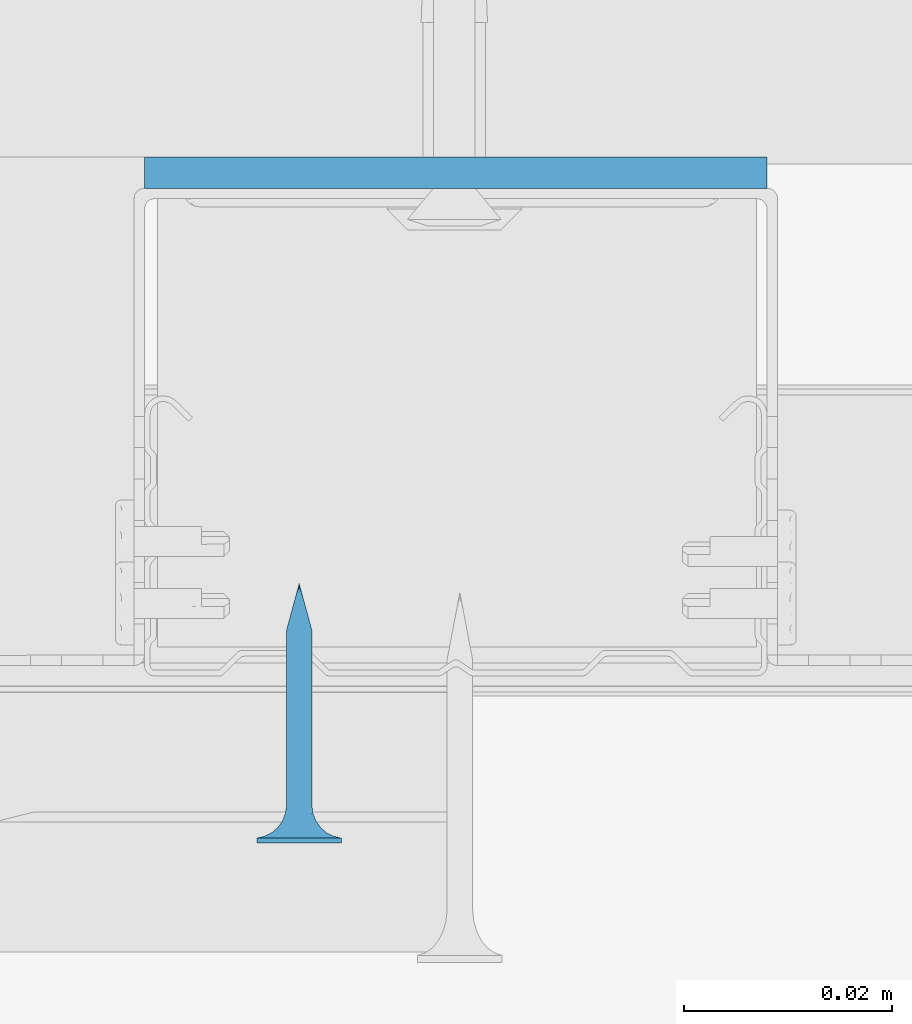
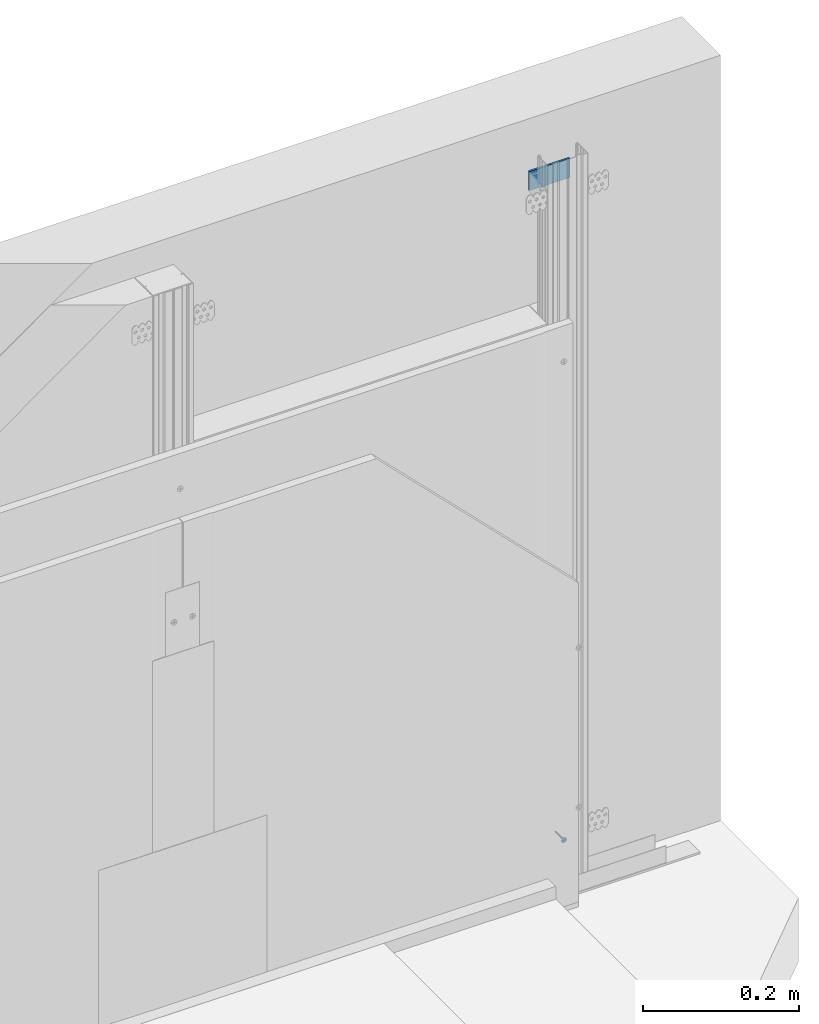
# One storey, part 46 of 47: 2 walls.
"""IFC2X3 building model written with IfcOpenShell, lengths in millimetres."""

from ifc_helpers import new_model, entity, si_unit, converted_unit, direction, frame, origin, origin_with_axes, place, context, project, spatial, faceted_brep, element, save


model = new_model("IFC2X3")

# Units and contexts
model_context = context("Model", 3, precision=1e-05, world=origin(), true_north=direction((0.0, 1.0, 0.0)))
ifc_project = project(units=[si_unit("LENGTHUNIT", "METRE", prefix="MILLI"), si_unit("AREAUNIT", "SQUARE_METRE"), si_unit("VOLUMEUNIT", "CUBIC_METRE"), converted_unit("PLANEANGLEUNIT", "DEGREE", entity("IfcPlaneAngleMeasure", 0.01745), si_unit("PLANEANGLEUNIT", "RADIAN"), dimensions=[0, 0, 0, 0, 0, 0, 0]), si_unit("SOLIDANGLEUNIT", "STERADIAN"), si_unit("MASSUNIT", "GRAM"), si_unit("TIMEUNIT", "SECOND"), si_unit("THERMODYNAMICTEMPERATUREUNIT", "DEGREE_CELSIUS"), si_unit("LUMINOUSINTENSITYUNIT", "LUMEN")], contexts=[model_context])

# Site, building, storey
site_placement = place(None, origin_with_axes())
site = spatial("IfcSite", under=ifc_project, at=site_placement, Name="Default Site", CompositionType="ELEMENT")
building_placement = place(site_placement, origin_with_axes())
building = spatial("IfcBuilding", under=site, at=building_placement, Name="Default Building", CompositionType="ELEMENT")
storey_placement = place(building_placement, origin_with_axes())
storey = spatial("IfcBuildingStorey", under=building, at=storey_placement, Name="Default Building Storey", CompositionType="ELEMENT", Elevation=0.0)

# Walls
wall_1_placement = place(storey_placement, frame((3458.037086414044, 2019.778611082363, 1120.960248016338), z_axis=(0.0, 0.0, 1.0), x_axis=(1.0, 0.0, 0.0)))
element("IfcWall", 1, at=wall_1_placement, inside=storey, Name="Taśma uszczelniająca piankowa RIGIPS szer.30mm", context=model_context, shape_type="Brep", body=[
    faceted_brep([(59.99999999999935, 0.0, 4.511946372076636e-12), (0.0, 0.0, 0.0), (1.082867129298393e-12, -2.237925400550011e-11, -30.00000000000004), (60.00000000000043, -2.237925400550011e-11, -29.99999999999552), (0.0, 3.00000000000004, 0.0), (1.082867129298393e-12, 2.999999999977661, -30.00000000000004), (60.00000000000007, 3.00000000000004, 0.0), (60.00000000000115, 2.999999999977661, -30.00000000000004)], [[[0, 1, 2, 3]], [[1, 4, 5, 2]], [[4, 6, 7, 5]], [[6, 0, 3, 7]], [[7, 3, 2, 5]], [[0, 6, 4, 1]]]),
])
wall_2_placement = place(storey_placement, frame((3610.40387046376, 5347.713057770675, -449.8785300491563), z_axis=(0.0, 0.0, 1.0), x_axis=(1.0, 8.115730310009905e-16, 0.0)))
element("IfcWall", 2, at=wall_2_placement, inside=storey, Name="Wkręt RIGIPS TN 25", context=model_context, shape_type="Brep", body=[
    faceted_brep([(-141.5377463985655, -3390.556721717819, 555.8000000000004), (-141.5377463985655, -3391.020944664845, 555.8000000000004), (-141.4875329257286, -3391.020944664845, 555.1619773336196), (-141.4875329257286, -3390.556721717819, 555.1619773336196), (-141.338128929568, -3391.020944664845, 554.5396649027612), (-141.338128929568, -3390.556721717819, 554.5396649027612), (-141.0932132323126, -3391.020944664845, 553.9483861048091), (-141.0932132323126, -3390.556721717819, 553.9483861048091), (-140.7588164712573, -3391.020944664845, 553.4027001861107), (-140.7588164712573, -3390.556721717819, 553.4027001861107), (-140.3431726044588, -3391.020944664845, 552.9160437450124), (-140.4541727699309, -3390.556721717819, 553.0314907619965), (-140.1080097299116, -3390.556721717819, 552.6986614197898), (-139.8565161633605, -3391.020944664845, 552.5003998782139), (-139.7251262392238, -3390.556721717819, 552.4088262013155), (-139.3108302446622, -3391.020944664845, 552.1660031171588), (-139.3108302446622, -3390.556721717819, 552.1660031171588), (-138.8708651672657, -3390.556721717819, 551.9735584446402), (-138.7195514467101, -3391.020944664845, 551.9210874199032), (-138.4113302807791, -3390.556721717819, 551.8341600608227), (-137.9385961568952, -3390.556721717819, 551.7497404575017), (-138.0972390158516, -3391.020944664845, 551.7716834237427), (-137.459216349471, -3391.020944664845, 551.7214699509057), (-137.459216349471, -3390.556721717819, 551.7214699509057), (-136.8211936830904, -3391.020944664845, 551.7716834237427), (-136.8211936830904, -3390.556721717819, 551.7716834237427), (-136.198881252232, -3391.020944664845, 551.9210874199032), (-136.198881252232, -3390.556721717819, 551.9210874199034), (-135.6076024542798, -3391.020944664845, 552.1660031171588), (-135.6076024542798, -3390.556721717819, 552.1660031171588), (-135.0619165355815, -3391.020944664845, 552.5003998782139), (-135.0619165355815, -3390.556721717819, 552.5003998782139), (-134.5752600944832, -3391.020944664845, 552.9160437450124), (-134.5752600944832, -3390.556721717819, 552.9160437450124), (-134.1596162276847, -3391.020944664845, 553.4027001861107), (-134.1596162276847, -3390.556721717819, 553.4027001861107), (-133.8252194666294, -3391.020944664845, 553.9483861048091), (-133.8252194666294, -3390.556721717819, 553.9483861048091), (-133.580303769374, -3391.020944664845, 554.5396649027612), (-133.580303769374, -3390.556721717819, 554.5396649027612), (-133.4308997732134, -3391.020944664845, 556.4380226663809), (-133.4308997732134, -3390.556721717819, 556.4380226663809), (-133.3806863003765, -3390.556721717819, 555.8000000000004), (-133.3806863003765, -3391.020944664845, 555.8000000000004), (-133.4308997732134, -3390.556721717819, 555.1619773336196), (-133.4308997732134, -3391.020944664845, 555.1619773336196), (-133.580303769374, -3391.020944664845, 557.0603350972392), (-133.580303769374, -3390.556721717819, 557.0603350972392), (-133.8252194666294, -3391.020944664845, 557.6516138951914), (-133.8252194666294, -3390.556721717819, 557.6516138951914), (-134.1596162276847, -3391.020944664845, 558.1972998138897), (-134.1596162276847, -3390.556721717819, 558.1972998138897), (-134.5752600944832, -3391.020944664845, 558.683956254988), (-134.5752600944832, -3390.556721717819, 558.683956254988), (-135.0619165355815, -3391.020944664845, 559.0996001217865), (-135.0619165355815, -3390.556721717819, 559.0996001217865), (-135.6076024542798, -3391.020944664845, 559.4339968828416), (-135.6076024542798, -3390.556721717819, 559.4339968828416), (-136.198881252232, -3391.020944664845, 559.6789125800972), (-136.198881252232, -3390.556721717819, 559.6789125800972), (-136.8211936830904, -3391.020944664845, 559.8283165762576), (-136.8211936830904, -3390.556721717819, 559.8283165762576), (-137.459216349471, -3391.020944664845, 559.8785300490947), (-137.459216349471, -3390.556721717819, 559.8785300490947), (-138.0972390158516, -3391.020944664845, 559.8283165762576), (-138.0972390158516, -3390.556721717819, 559.8283165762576), (-138.7195514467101, -3391.020944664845, 559.6789125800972), (-138.7195514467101, -3390.556721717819, 559.6789125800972), (-139.3108302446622, -3391.020944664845, 559.4339968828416), (-139.3108302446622, -3390.556721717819, 559.4339968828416), (-139.8565161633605, -3391.020944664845, 559.0996001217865), (-139.8565161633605, -3390.556721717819, 559.0996001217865), (-140.3431726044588, -3391.020944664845, 558.683956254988), (-140.3431726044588, -3390.556721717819, 558.683956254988), (-140.7588164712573, -3391.020944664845, 558.1972998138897), (-140.7588164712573, -3390.556721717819, 558.1972998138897), (-141.0932132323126, -3391.020944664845, 557.6516138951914), (-141.0932132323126, -3390.556721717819, 557.6516138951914), (-141.338128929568, -3391.020944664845, 557.0603350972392), (-141.338128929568, -3390.556721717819, 557.0603350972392), (-141.4875329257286, -3391.020944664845, 556.4380226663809), (-141.4875329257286, -3390.556721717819, 556.4380226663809), (-137.8060615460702, -3388.229732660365, 554.5055560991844), (-137.459216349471, -3387.475459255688, 554.5693795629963), (-137.6517277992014, -3387.475459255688, 554.5845305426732), (-137.459216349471, -3388.229732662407, 554.4598930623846), (-137.8394989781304, -3387.475459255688, 554.6296104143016), (-138.1292698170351, -3388.229732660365, 554.639433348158), (-138.0179063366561, -3387.475459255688, 554.7035091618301), (-138.1825568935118, -3387.475459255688, 554.804407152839), (-138.4068150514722, -3388.229732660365, 554.8524012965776), (-138.3293964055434, -3387.475459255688, 554.929819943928), (-138.6197830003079, -3388.229732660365, 555.1299465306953), (-138.4548091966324, -3387.475459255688, 555.0766594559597), (-138.5557071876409, -3387.475459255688, 555.2413100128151), (-138.7536602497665, -3388.229732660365, 555.4531548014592), (-138.6296059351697, -3387.475459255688, 555.4197173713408), (-138.6746858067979, -3387.475459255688, 555.6074885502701), (-138.7993232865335, -3388.229732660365, 555.7999999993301), (-138.6898367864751, -3387.475459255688, 555.8000000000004), (-138.7536602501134, -3388.229732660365, 556.1468451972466), (-138.6746858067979, -3387.475459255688, 555.9925114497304), (-138.6296059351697, -3387.475459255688, 556.1802826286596), (-138.6197830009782, -3388.229732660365, 556.4700534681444), (-138.5557071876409, -3387.475459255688, 556.3586899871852), (-138.4548091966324, -3387.475459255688, 556.5233405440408), (-138.4068150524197, -3388.229732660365, 556.7475987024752), (-138.3293964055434, -3387.475459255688, 556.6701800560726), (-138.1292698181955, -3388.229732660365, 556.9605666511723), (-138.1825568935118, -3387.475459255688, 556.7955928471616), (-138.0179063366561, -3387.475459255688, 556.8964908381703), (-137.8060615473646, -3388.229732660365, 557.0944439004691), (-137.8394989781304, -3387.475459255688, 556.9703895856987), (-137.6517277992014, -3387.475459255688, 557.0154694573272), (-137.459216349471, -3388.229732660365, 557.1401069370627), (-137.459216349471, -3387.475459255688, 557.0306204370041), (-137.1123711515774, -3388.229732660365, 557.0944439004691), (-137.2667048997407, -3387.475459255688, 557.0154694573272), (-137.0789337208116, -3387.475459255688, 556.9703895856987), (-136.7891628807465, -3388.229732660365, 556.9605666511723), (-136.9005263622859, -3387.475459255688, 556.8964908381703), (-136.7358758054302, -3387.475459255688, 556.7955928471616), (-136.5116176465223, -3388.229732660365, 556.7475987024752), (-136.5890362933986, -3387.475459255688, 556.6701800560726), (-136.2986496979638, -3388.229732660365, 556.4700534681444), (-136.4636235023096, -3387.475459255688, 556.5233405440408), (-136.3627255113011, -3387.475459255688, 556.3586899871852), (-136.1647724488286, -3388.229732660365, 556.1468451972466), (-136.2888267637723, -3387.475459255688, 556.1802826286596), (-136.2437468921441, -3387.475459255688, 555.9925114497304), (-136.1191094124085, -3388.229732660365, 555.7999999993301), (-136.2285959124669, -3387.475459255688, 555.8000000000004), (-136.1647724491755, -3388.229732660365, 555.4531548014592), (-136.2437468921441, -3387.475459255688, 555.6074885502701), (-136.2888267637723, -3387.475459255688, 555.4197173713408), (-136.2986496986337, -3388.229732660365, 555.1299465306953), (-136.3627255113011, -3387.475459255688, 555.2413100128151), (-136.4636235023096, -3387.475459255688, 555.0766594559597), (-136.5116176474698, -3388.229732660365, 554.8524012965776), (-136.5890362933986, -3387.475459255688, 554.929819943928), (-136.7891628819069, -3388.229732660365, 554.639433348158), (-136.7358758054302, -3387.475459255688, 554.804407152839), (-136.9005263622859, -3387.475459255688, 554.7035091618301), (-137.1123711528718, -3388.229732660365, 554.5055560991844), (-137.0789337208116, -3387.475459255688, 554.6296104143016), (-137.2667048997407, -3387.475459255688, 554.5845305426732), (-137.459216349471, -3388.936142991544, 554.1737111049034), (-137.8801308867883, -3388.936142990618, 554.2291255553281), (-138.2723607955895, -3388.936142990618, 554.3915925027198), (-138.6091762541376, -3388.936142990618, 554.6500400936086), (-138.8676238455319, -3388.936142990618, 554.9868555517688), (-139.030090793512, -3388.936142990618, 555.3790854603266), (-139.0855052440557, -3388.936142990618, 555.7999999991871), (-139.0300907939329, -3388.936142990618, 556.2209145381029), (-138.8676238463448, -3388.936142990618, 556.6131444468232), (-138.6091762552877, -3388.936142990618, 556.949959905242), (-138.272360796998, -3388.936142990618, 557.2084074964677), (-137.8801308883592, -3388.936142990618, 557.3708744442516), (-137.459216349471, -3388.936142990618, 557.4262888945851), (-137.0383018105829, -3388.936142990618, 557.3708744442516), (-136.646071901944, -3388.936142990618, 557.2084074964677), (-136.3092564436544, -3388.936142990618, 556.949959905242), (-136.0508088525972, -3388.936142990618, 556.6131444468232), (-135.8883419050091, -3388.936142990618, 556.2209145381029), (-135.8329274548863, -3388.936142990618, 555.7999999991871), (-135.88834190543, -3388.936142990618, 555.3790854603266), (-136.0508088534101, -3388.936142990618, 554.9868555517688), (-136.3092564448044, -3388.936142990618, 554.6500400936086), (-136.6460719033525, -3388.936142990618, 554.3915925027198), (-137.0383018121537, -3388.936142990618, 554.2291255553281), (-137.459216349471, -3389.553938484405, 553.727343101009), (-137.995659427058, -3389.553938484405, 553.7979671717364), (-138.4955447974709, -3389.553938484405, 554.005026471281), (-138.9248060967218, -3389.553938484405, 554.334410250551), (-139.2541898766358, -3389.553938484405, 554.7636715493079), (-139.46124917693, -3389.553938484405, 555.2635569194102), (-139.5318732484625, -3389.553938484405, 555.7999999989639), (-139.4612491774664, -3389.553938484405, 556.3364430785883), (-139.2541898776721, -3389.553938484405, 556.8363284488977), (-138.9248060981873, -3389.553938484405, 557.2655897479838), (-138.495544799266, -3389.553938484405, 557.5949735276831), (-137.9956594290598, -3389.553938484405, 557.8020328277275), (-137.459216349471, -3389.553938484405, 557.8726568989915), (-136.9227732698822, -3389.553938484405, 557.8020328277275), (-136.422887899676, -3389.553938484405, 557.5949735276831), (-135.9936266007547, -3389.553938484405, 557.2655897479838), (-135.6642428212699, -3389.553938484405, 556.8363284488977), (-135.4571835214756, -3389.553938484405, 556.3364430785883), (-135.3865594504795, -3389.553938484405, 555.7999999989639), (-135.457183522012, -3389.553938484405, 555.2635569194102), (-135.6642428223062, -3389.553938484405, 554.7636715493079), (-135.9936266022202, -3389.553938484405, 554.334410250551), (-136.4228879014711, -3389.553938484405, 554.005026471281), (-136.922773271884, -3389.553938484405, 553.7979671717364), (-137.459216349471, -3390.047479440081, 553.1465393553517), (-138.1459824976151, -3390.047479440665, 553.2369538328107), (-138.7859466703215, -3390.047479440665, 553.5020356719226), (-139.3354963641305, -3390.047479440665, 553.9237199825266), (-139.7571806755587, -3390.047479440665, 554.4732696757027), (-140.0222625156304, -3390.047479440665, 555.1132338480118), (-140.1126769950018, -3390.047479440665, 555.7999999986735), (-140.0222625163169, -3390.047479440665, 556.4867661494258), (-139.7571806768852, -3390.047479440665, 557.1267303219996), (-139.3354963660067, -3390.047479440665, 557.6762800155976), (-138.7859466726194, -3390.047479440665, 558.0979643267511), (-138.1459825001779, -3390.047479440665, 558.3630461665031), (-137.459216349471, -3390.047479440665, 558.4534606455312), (-136.7724501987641, -3390.047479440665, 558.3630461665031), (-136.1324860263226, -3390.047479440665, 558.0979643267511), (-135.5829363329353, -3390.047479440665, 557.6762800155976), (-135.1612520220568, -3390.047479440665, 557.1267303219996), (-134.8961701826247, -3390.047479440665, 556.4867661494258), (-134.8057557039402, -3390.047479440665, 555.7999999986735), (-134.8961701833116, -3390.047479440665, 555.1132338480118), (-135.1612520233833, -3390.047479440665, 554.4732696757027), (-135.5829363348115, -3390.047479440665, 553.9237199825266), (-136.1324860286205, -3390.047479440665, 553.5020356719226), (-136.7724502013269, -3390.047479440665, 553.2369538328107), (-137.459216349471, -3390.388294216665, 552.4648055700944), (-138.3224281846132, -3390.388294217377, 552.5784495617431), (-139.1268135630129, -3390.388294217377, 552.9116368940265), (-139.8175549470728, -3390.388294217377, 553.4416613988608), (-140.3475794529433, -3390.388294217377, 554.1324027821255), (-140.6807667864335, -3390.388294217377, 554.9367881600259), (-140.7944107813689, -3390.388294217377, 555.7999999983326), (-140.6807667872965, -3390.388294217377, 556.6632118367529), (-140.3475794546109, -3390.388294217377, 557.4675972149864), (-139.8175549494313, -3390.388294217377, 558.1583385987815), (-139.1268135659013, -3390.388294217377, 558.6883631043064), (-138.3224281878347, -3390.388294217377, 559.0215504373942), (-137.459216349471, -3390.388294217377, 559.1351944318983), (-136.5960045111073, -3390.388294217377, 559.0215504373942), (-135.7916191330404, -3390.388294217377, 558.6883631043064), (-135.1008777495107, -3390.388294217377, 558.1583385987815), (-134.5708532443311, -3390.388294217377, 557.4675972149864), (-134.2376659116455, -3390.388294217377, 556.6632118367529), (-134.1240219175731, -3390.388294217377, 555.7999999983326), (-134.2376659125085, -3390.388294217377, 554.9367881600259), (-134.5708532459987, -3390.388294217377, 554.1324027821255), (-135.1008777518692, -3390.388294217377, 553.4416613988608), (-135.7916191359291, -3390.388294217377, 552.9116368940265), (-136.5960045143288, -3390.388294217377, 552.5784495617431), (-138.6898367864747, -3370.55807436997, 555.8000000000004), (-138.6746858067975, -3370.55807436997, 555.6074885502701), (-138.6296059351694, -3370.55807436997, 555.4197173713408), (-138.5557071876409, -3370.55807436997, 555.2413100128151), (-138.4548091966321, -3370.55807436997, 555.0766594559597), (-138.329396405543, -3370.55807436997, 554.929819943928), (-138.1825568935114, -3370.55807436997, 554.804407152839), (-138.0179063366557, -3370.55807436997, 554.7035091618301), (-137.83949897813, -3370.55807436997, 554.6296104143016), (-137.651727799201, -3370.55807436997, 554.5845305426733), (-137.4592163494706, -3370.55807436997, 554.5693795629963), (-137.2667048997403, -3370.55807436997, 554.5845305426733), (-137.0789337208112, -3370.55807436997, 554.6296104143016), (-136.9005263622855, -3370.55807436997, 554.7035091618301), (-136.7358758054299, -3370.55807436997, 554.804407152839), (-136.5890362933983, -3370.55807436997, 554.929819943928), (-136.4636235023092, -3370.55807436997, 555.0766594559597), (-136.3627255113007, -3370.55807436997, 555.2413100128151), (-136.2888267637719, -3370.55807436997, 555.4197173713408), (-136.2437468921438, -3370.55807436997, 555.9925114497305), (-136.2285959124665, -3370.55807436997, 555.8000000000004), (-136.2437468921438, -3370.55807436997, 555.6074885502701), (-136.2888267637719, -3370.55807436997, 556.1802826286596), (-136.3627255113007, -3370.55807436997, 556.3586899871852), (-136.4636235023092, -3370.55807436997, 556.5233405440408), (-136.5890362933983, -3370.55807436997, 556.6701800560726), (-136.7358758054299, -3370.55807436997, 556.7955928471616), (-136.9005263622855, -3370.55807436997, 556.8964908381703), (-137.0789337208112, -3370.55807436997, 556.9703895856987), (-137.2667048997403, -3370.55807436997, 557.0154694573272), (-137.4592163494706, -3370.55807436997, 557.0306204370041), (-137.651727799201, -3370.55807436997, 557.0154694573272), (-137.83949897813, -3370.55807436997, 556.9703895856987), (-138.0179063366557, -3370.55807436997, 556.8964908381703), (-138.1825568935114, -3370.55807436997, 556.7955928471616), (-138.329396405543, -3370.55807436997, 556.6701800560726), (-138.4548091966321, -3370.55807436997, 556.5233405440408), (-138.5557071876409, -3370.55807436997, 556.3586899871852), (-138.6296059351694, -3370.55807436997, 556.1802826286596), (-138.6746858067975, -3370.55807436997, 555.9925114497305), (-137.4592163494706, -3366.021033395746, 555.8000000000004), (-139.9592163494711, -3391.020944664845, 556.3000000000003), (-137.9592163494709, -3391.020944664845, 556.3000000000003), (-139.9592163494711, -3391.020944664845, 555.3000000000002), (-137.9592163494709, -3391.020944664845, 555.3000000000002), (-137.9592163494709, -3391.020944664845, 553.3000000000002), (-136.9592163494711, -3391.020944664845, 553.3000000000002), (-136.9592163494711, -3391.020944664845, 555.3000000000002), (-134.9592163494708, -3391.020944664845, 555.3000000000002), (-134.9592163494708, -3391.020944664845, 556.3000000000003), (-136.9592163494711, -3391.020944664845, 556.3000000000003), (-136.9592163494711, -3391.020944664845, 558.3000000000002), (-137.9592163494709, -3391.020944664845, 558.3000000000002), (-136.9592163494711, -3390.128974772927, 556.3000000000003), (-134.9592163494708, -3390.128974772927, 556.3000000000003), (-134.9592163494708, -3390.128974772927, 555.3000000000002), (-136.9592163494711, -3390.128974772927, 555.3000000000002), (-136.9592163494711, -3390.128974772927, 553.3000000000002), (-137.9592163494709, -3390.128974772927, 553.3000000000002), (-137.9592163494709, -3390.128974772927, 555.3000000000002), (-139.9592163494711, -3390.128974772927, 555.3000000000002), (-139.9592163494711, -3390.128974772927, 556.3000000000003), (-137.9592163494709, -3390.128974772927, 556.3000000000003), (-137.9592163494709, -3390.128974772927, 558.3000000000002), (-136.9592163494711, -3390.128974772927, 558.3000000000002)], [[[0, 1, 2, 3]], [[4, 5, 3, 2]], [[6, 7, 5, 4]], [[7, 6, 8, 9]], [[8, 10, 9]], [[10, 11, 9]], [[12, 11, 13]], [[11, 10, 13]], [[13, 14, 12]], [[13, 15, 14]], [[15, 16, 14]], [[17, 16, 18]], [[16, 15, 18]], [[18, 19, 17]], [[20, 19, 21]], [[19, 18, 21]], [[21, 22, 20]], [[22, 23, 20]], [[23, 22, 24, 25]], [[26, 27, 25, 24]], [[28, 29, 27, 26]], [[29, 28, 30, 31]], [[32, 33, 31, 30]], [[33, 32, 34, 35]], [[36, 37, 35, 34]], [[38, 39, 37, 36]], [[40, 41, 42, 43]], [[43, 42, 44, 45]], [[39, 38, 45, 44]], [[46, 47, 41, 40]], [[48, 49, 47, 46]], [[49, 48, 50, 51]], [[52, 53, 51, 50]], [[53, 52, 54, 55]], [[56, 57, 55, 54]], [[58, 59, 57, 56]], [[59, 58, 60, 61]], [[62, 63, 61, 60]], [[63, 62, 64, 65]], [[66, 67, 65, 64]], [[68, 69, 67, 66]], [[69, 68, 70, 71]], [[72, 73, 71, 70]], [[73, 72, 74, 75]], [[76, 77, 75, 74]], [[78, 79, 77, 76]], [[79, 78, 80, 81]], [[1, 0, 81, 80]], [[82, 83, 84]], [[82, 85, 83]], [[84, 86, 82]], [[82, 86, 87]], [[88, 87, 86]], [[87, 88, 89]], [[89, 90, 87]], [[89, 91, 90]], [[92, 91, 93]], [[92, 90, 91]], [[93, 94, 92]], [[92, 94, 95]], [[96, 95, 94]], [[95, 96, 97]], [[97, 98, 95]], [[97, 99, 98]], [[100, 99, 101]], [[100, 98, 99]], [[101, 102, 100]], [[100, 102, 103]], [[104, 103, 102]], [[103, 104, 105]], [[105, 106, 103]], [[105, 107, 106]], [[108, 107, 109]], [[108, 106, 107]], [[109, 110, 108]], [[108, 110, 111]], [[112, 111, 110]], [[111, 112, 113]], [[113, 114, 111]], [[113, 115, 114]], [[116, 115, 117]], [[116, 114, 115]], [[117, 118, 116]], [[116, 118, 119]], [[120, 119, 118]], [[119, 120, 121]], [[121, 122, 119]], [[121, 123, 122]], [[124, 123, 125]], [[124, 122, 123]], [[125, 126, 124]], [[124, 126, 127]], [[128, 127, 126]], [[127, 128, 129]], [[129, 130, 127]], [[129, 131, 130]], [[132, 131, 133]], [[132, 130, 131]], [[133, 134, 132]], [[132, 134, 135]], [[136, 135, 134]], [[135, 136, 137]], [[137, 138, 135]], [[137, 139, 138]], [[140, 139, 141]], [[140, 138, 139]], [[141, 142, 140]], [[140, 142, 143]], [[144, 143, 142]], [[143, 144, 145]], [[145, 85, 143]], [[145, 83, 85]], [[146, 85, 147]], [[82, 147, 85]], [[87, 148, 147, 82]], [[90, 149, 148, 87]], [[92, 150, 149, 90]], [[95, 151, 150, 92]], [[98, 152, 151, 95]], [[100, 153, 152, 98]], [[103, 154, 153, 100]], [[106, 155, 154, 103]], [[108, 156, 155, 106]], [[111, 157, 156, 108]], [[114, 158, 157, 111]], [[116, 159, 158, 114]], [[119, 160, 159, 116]], [[122, 161, 160, 119]], [[124, 162, 161, 122]], [[127, 163, 162, 124]], [[130, 164, 163, 127]], [[132, 165, 164, 130]], [[135, 166, 165, 132]], [[138, 167, 166, 135]], [[140, 168, 167, 138]], [[143, 169, 168, 140]], [[143, 85, 169]], [[146, 169, 85]], [[170, 146, 171]], [[147, 171, 146]], [[148, 172, 171, 147]], [[149, 173, 172, 148]], [[150, 174, 173, 149]], [[151, 175, 174, 150]], [[152, 176, 175, 151]], [[153, 177, 176, 152]], [[154, 178, 177, 153]], [[155, 179, 178, 154]], [[156, 180, 179, 155]], [[157, 181, 180, 156]], [[158, 182, 181, 157]], [[159, 183, 182, 158]], [[160, 184, 183, 159]], [[161, 185, 184, 160]], [[162, 186, 185, 161]], [[163, 187, 186, 162]], [[164, 188, 187, 163]], [[165, 189, 188, 164]], [[166, 190, 189, 165]], [[167, 191, 190, 166]], [[168, 192, 191, 167]], [[169, 193, 192, 168]], [[169, 146, 193]], [[170, 193, 146]], [[194, 170, 195]], [[171, 195, 170]], [[172, 196, 195, 171]], [[173, 197, 196, 172]], [[174, 198, 197, 173]], [[175, 199, 198, 174]], [[176, 200, 199, 175]], [[177, 201, 200, 176]], [[178, 202, 201, 177]], [[179, 203, 202, 178]], [[180, 204, 203, 179]], [[181, 205, 204, 180]], [[182, 206, 205, 181]], [[183, 207, 206, 182]], [[184, 208, 207, 183]], [[185, 209, 208, 184]], [[186, 210, 209, 185]], [[187, 211, 210, 186]], [[188, 212, 211, 187]], [[189, 213, 212, 188]], [[190, 214, 213, 189]], [[191, 215, 214, 190]], [[192, 216, 215, 191]], [[193, 217, 216, 192]], [[193, 170, 217]], [[194, 217, 170]], [[218, 19, 20]], [[218, 219, 19]], [[20, 23, 218]], [[218, 194, 219]], [[195, 219, 194]], [[219, 16, 17]], [[219, 220, 16]], [[17, 19, 219]], [[196, 220, 219, 195]], [[221, 11, 12]], [[220, 12, 14]], [[220, 221, 12]], [[14, 16, 220]], [[197, 221, 220, 196]], [[222, 7, 9]], [[9, 221, 222]], [[9, 11, 221]], [[198, 222, 221, 197]], [[5, 7, 223]], [[222, 223, 7]], [[199, 223, 222, 198]], [[223, 0, 3]], [[223, 224, 0]], [[3, 5, 223]], [[200, 224, 223, 199]], [[225, 79, 81]], [[81, 224, 225]], [[81, 0, 224]], [[201, 225, 224, 200]], [[225, 226, 77, 79]], [[202, 226, 225, 201]], [[226, 73, 75]], [[226, 227, 73]], [[75, 77, 226]], [[203, 227, 226, 202]], [[228, 69, 71]], [[71, 227, 228]], [[71, 73, 227]], [[204, 228, 227, 203]], [[228, 229, 67, 69]], [[205, 229, 228, 204]], [[229, 63, 65]], [[229, 230, 63]], [[65, 67, 229]], [[206, 230, 229, 205]], [[231, 59, 61]], [[61, 230, 231]], [[61, 63, 230]], [[207, 231, 230, 206]], [[231, 232, 57, 59]], [[208, 232, 231, 207]], [[232, 53, 55]], [[232, 233, 53]], [[55, 57, 232]], [[209, 233, 232, 208]], [[234, 49, 51]], [[51, 233, 234]], [[51, 53, 233]], [[210, 234, 233, 209]], [[234, 235, 47, 49]], [[211, 235, 234, 210]], [[235, 42, 41]], [[235, 236, 42]], [[41, 47, 235]], [[212, 236, 235, 211]], [[237, 39, 44]], [[44, 236, 237]], [[44, 42, 236]], [[213, 237, 236, 212]], [[37, 39, 238]], [[237, 238, 39]], [[214, 238, 237, 213]], [[238, 33, 35]], [[238, 239, 33]], [[35, 37, 238]], [[215, 239, 238, 214]], [[240, 29, 31]], [[31, 239, 240]], [[31, 33, 239]], [[216, 240, 239, 215]], [[27, 29, 241]], [[240, 241, 29]], [[217, 241, 240, 216]], [[217, 194, 241]], [[218, 241, 194]], [[241, 23, 25]], [[241, 218, 23]], [[25, 27, 241]], [[242, 99, 97, 243]], [[96, 244, 243, 97]], [[94, 245, 244, 96]], [[245, 94, 93, 246]], [[91, 247, 246, 93]], [[247, 91, 89, 248]], [[88, 249, 248, 89]], [[86, 250, 249, 88]], [[250, 86, 84, 251]], [[83, 252, 251, 84]], [[252, 83, 145, 253]], [[144, 254, 253, 145]], [[142, 255, 254, 144]], [[255, 142, 141, 256]], [[139, 257, 256, 141]], [[257, 139, 137, 258]], [[136, 259, 258, 137]], [[134, 260, 259, 136]], [[129, 261, 262, 131]], [[131, 262, 263, 133]], [[260, 134, 133, 263]], [[128, 264, 261, 129]], [[126, 265, 264, 128]], [[265, 126, 125, 266]], [[123, 267, 266, 125]], [[267, 123, 121, 268]], [[120, 269, 268, 121]], [[118, 270, 269, 120]], [[270, 118, 117, 271]], [[115, 272, 271, 117]], [[272, 115, 113, 273]], [[112, 274, 273, 113]], [[110, 275, 274, 112]], [[275, 110, 109, 276]], [[107, 277, 276, 109]], [[277, 107, 105, 278]], [[104, 279, 278, 105]], [[102, 280, 279, 104]], [[280, 102, 101, 281]], [[99, 242, 281, 101]], [[243, 244, 282]], [[282, 242, 243]], [[244, 245, 282]], [[246, 247, 282]], [[282, 245, 246]], [[248, 249, 282]], [[282, 247, 248]], [[249, 250, 282]], [[251, 252, 282]], [[282, 250, 251]], [[253, 254, 282]], [[282, 252, 253]], [[254, 255, 282]], [[256, 257, 282]], [[282, 255, 256]], [[258, 259, 282]], [[282, 257, 258]], [[259, 260, 282]], [[263, 262, 282]], [[282, 260, 263]], [[261, 264, 282]], [[282, 262, 261]], [[264, 265, 282]], [[266, 267, 282]], [[282, 265, 266]], [[268, 269, 282]], [[282, 267, 268]], [[269, 270, 282]], [[271, 272, 282]], [[282, 270, 271]], [[273, 274, 282]], [[282, 272, 273]], [[274, 275, 282]], [[276, 277, 282]], [[282, 275, 276]], [[278, 279, 282]], [[282, 277, 278]], [[279, 280, 282]], [[281, 242, 282]], [[282, 280, 281]], [[283, 76, 74, 284]], [[283, 285, 286, 287, 288, 289, 290, 291, 292, 293, 294, 284, 74, 72, 70, 68, 66, 64, 62, 60, 58, 56, 54, 52, 50, 48, 46, 40, 43, 45, 38, 36, 34, 32, 30, 28, 26, 24, 22, 21, 18, 15, 13, 10, 8, 6, 4, 2, 1, 80, 78, 76]], [[295, 296, 297, 298, 299, 300, 301, 302, 303, 304, 305, 306]], [[297, 290, 289, 298]], [[296, 291, 290, 297]], [[295, 292, 291, 296]], [[306, 293, 292, 295]], [[305, 294, 293, 306]], [[304, 284, 294, 305]], [[303, 283, 284, 304]], [[302, 285, 283, 303]], [[301, 286, 285, 302]], [[300, 287, 286, 301]], [[299, 288, 287, 300]], [[298, 289, 288, 299]]]),
])

save(model, "model.ifc")
